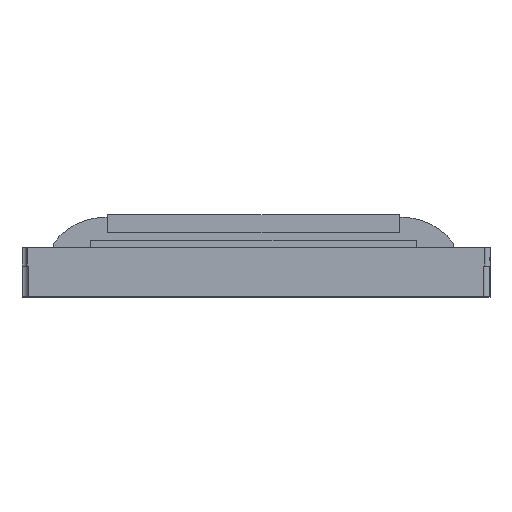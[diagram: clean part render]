
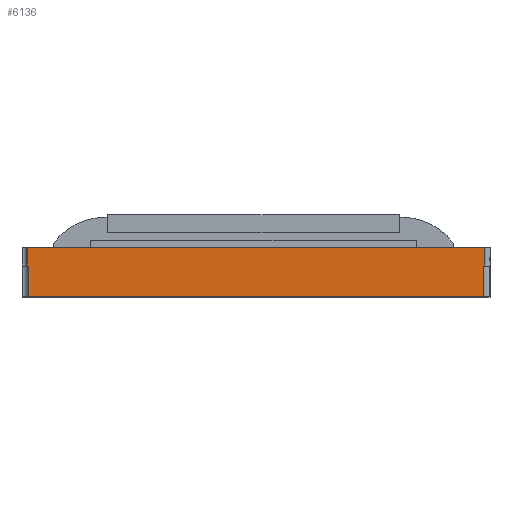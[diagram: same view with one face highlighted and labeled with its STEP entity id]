
A CAD part, top view. The second image highlights one B-rep face of the part: STEP entity #6136.
In plain terms, the highlighted planar face has unit normal (0, 0, 1).
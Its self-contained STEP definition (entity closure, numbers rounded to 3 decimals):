
#100 = CARTESIAN_POINT ( 'NONE',  ( 8.975, 1.925, 4.8 ) ) ;
#387 = VECTOR ( 'NONE', #3791, 1000. ) ;
#395 = EDGE_CURVE ( 'NONE', #1013, #3000, #943, .T. ) ;
#404 = LINE ( 'NONE', #4867, #1325 ) ;
#414 = CARTESIAN_POINT ( 'NONE',  ( -8.975, 1.2, 4.8 ) ) ;
#497 = FACE_OUTER_BOUND ( 'NONE', #1575, .T. ) ;
#692 = CARTESIAN_POINT ( 'NONE',  ( 8.925, 0., 4.8 ) ) ;
#811 = LINE ( 'NONE', #414, #387 ) ;
#847 = ORIENTED_EDGE ( 'NONE', *, *, #1861, .F. ) ;
#943 = LINE ( 'NONE', #2830, #2564 ) ;
#990 = EDGE_CURVE ( 'NONE', #4932, #4255, #6043, .T. ) ;
#1013 = VERTEX_POINT ( 'NONE', #3070 ) ;
#1058 = CARTESIAN_POINT ( 'NONE',  ( -9.175, 1.925, 4.8 ) ) ;
#1187 = EDGE_CURVE ( 'NONE', #5617, #4932, #404, .T. ) ;
#1233 = CARTESIAN_POINT ( 'NONE',  ( 8.975, 0., 4.8 ) ) ;
#1278 = VERTEX_POINT ( 'NONE', #100 ) ;
#1325 = VECTOR ( 'NONE', #3907, 1000. ) ;
#1371 = VERTEX_POINT ( 'NONE', #3060 ) ;
#1481 = EDGE_CURVE ( 'NONE', #6135, #1371, #4780, .T. ) ;
#1483 = CARTESIAN_POINT ( 'NONE',  ( -8.925, 1.2, 4.8 ) ) ;
#1575 = EDGE_LOOP ( 'NONE', ( #3991, #5695, #4707, #3409, #5252, #5354, #847, #3209 ) ) ;
#1635 = DIRECTION ( 'NONE',  ( 1., 0., 0. ) ) ;
#1644 = EDGE_CURVE ( 'NONE', #6135, #1278, #3607, .T. ) ;
#1793 = VECTOR ( 'NONE', #5353, 1000. ) ;
#1861 = EDGE_CURVE ( 'NONE', #3000, #1278, #5432, .T. ) ;
#2030 = VECTOR ( 'NONE', #5054, 1000. ) ;
#2300 = DIRECTION ( 'NONE',  ( 0., 0., -1. ) ) ;
#2313 = DIRECTION ( 'NONE',  ( 0., 1., 0. ) ) ;
#2409 = CARTESIAN_POINT ( 'NONE',  ( -8.925, 0., 4.8 ) ) ;
#2445 = VECTOR ( 'NONE', #4115, 1000. ) ;
#2564 = VECTOR ( 'NONE', #2313, 1000. ) ;
#2772 = LINE ( 'NONE', #3435, #1793 ) ;
#2830 = CARTESIAN_POINT ( 'NONE',  ( -8.975, 0., 4.8 ) ) ;
#2964 = VECTOR ( 'NONE', #1635, 1000. ) ;
#3000 = VERTEX_POINT ( 'NONE', #4223 ) ;
#3060 = CARTESIAN_POINT ( 'NONE',  ( 8.925, 1.2, 4.8 ) ) ;
#3070 = CARTESIAN_POINT ( 'NONE',  ( -8.975, 1.2, 4.8 ) ) ;
#3108 = CARTESIAN_POINT ( 'NONE',  ( 8.925, 1.2, 4.8 ) ) ;
#3134 = AXIS2_PLACEMENT_3D ( 'NONE', #5825, #2300, #5315 ) ;
#3168 = PLANE ( 'NONE',  #3134 ) ;
#3209 = ORIENTED_EDGE ( 'NONE', *, *, #395, .F. ) ;
#3409 = ORIENTED_EDGE ( 'NONE', *, *, #4991, .F. ) ;
#3435 = CARTESIAN_POINT ( 'NONE',  ( 8.925, 1.2, 4.8 ) ) ;
#3607 = LINE ( 'NONE', #1233, #2445 ) ;
#3686 = VECTOR ( 'NONE', #5099, 1000. ) ;
#3791 = DIRECTION ( 'NONE',  ( -1., 0., 0. ) ) ;
#3907 = DIRECTION ( 'NONE',  ( 0., -1., 0. ) ) ;
#3991 = ORIENTED_EDGE ( 'NONE', *, *, #4927, .F. ) ;
#4115 = DIRECTION ( 'NONE',  ( 0., 1., 0. ) ) ;
#4223 = CARTESIAN_POINT ( 'NONE',  ( -8.975, 1.925, 4.8 ) ) ;
#4255 = VERTEX_POINT ( 'NONE', #692 ) ;
#4707 = ORIENTED_EDGE ( 'NONE', *, *, #990, .T. ) ;
#4780 = LINE ( 'NONE', #3108, #3686 ) ;
#4867 = CARTESIAN_POINT ( 'NONE',  ( -8.925, 1.2, 4.8 ) ) ;
#4927 = EDGE_CURVE ( 'NONE', #5617, #1013, #811, .T. ) ;
#4932 = VERTEX_POINT ( 'NONE', #2409 ) ;
#4991 = EDGE_CURVE ( 'NONE', #1371, #4255, #2772, .T. ) ;
#5054 = DIRECTION ( 'NONE',  ( 1., 0., 0. ) ) ;
#5099 = DIRECTION ( 'NONE',  ( -1., 0., 0. ) ) ;
#5225 = CARTESIAN_POINT ( 'NONE',  ( 8.975, 1.2, 4.8 ) ) ;
#5252 = ORIENTED_EDGE ( 'NONE', *, *, #1481, .F. ) ;
#5315 = DIRECTION ( 'NONE',  ( -1., 0., 0. ) ) ;
#5353 = DIRECTION ( 'NONE',  ( 0., -1., 0. ) ) ;
#5354 = ORIENTED_EDGE ( 'NONE', *, *, #1644, .T. ) ;
#5432 = LINE ( 'NONE', #1058, #2964 ) ;
#5617 = VERTEX_POINT ( 'NONE', #1483 ) ;
#5695 = ORIENTED_EDGE ( 'NONE', *, *, #1187, .T. ) ;
#5825 = CARTESIAN_POINT ( 'NONE',  ( -9.175, 1.925, 4.8 ) ) ;
#6005 = CARTESIAN_POINT ( 'NONE',  ( -9.175, 0., 4.8 ) ) ;
#6043 = LINE ( 'NONE', #6005, #2030 ) ;
#6135 = VERTEX_POINT ( 'NONE', #5225 ) ;
#6136 = ADVANCED_FACE ( 'NONE', ( #497 ), #3168, .F. ) ;
